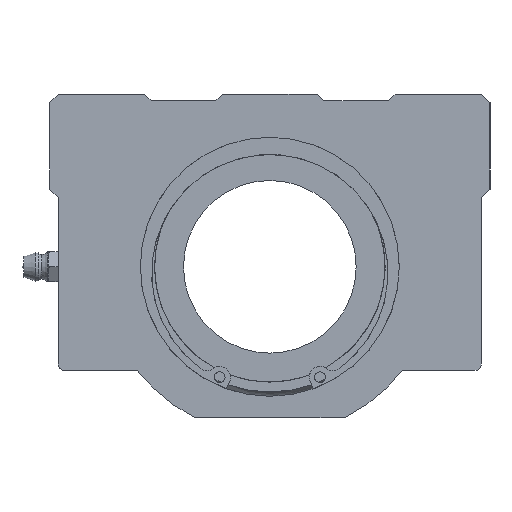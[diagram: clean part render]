
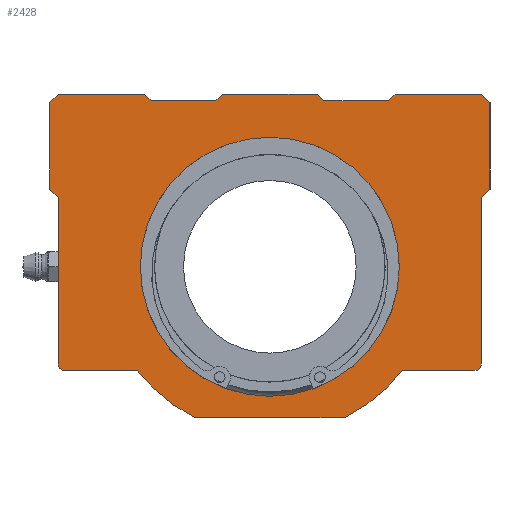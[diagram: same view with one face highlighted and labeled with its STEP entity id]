
A CAD part, left-side view. The second image highlights one B-rep face of the part: STEP entity #2428.
In plain terms, the highlighted planar face has unit normal (-1, 0, 0).
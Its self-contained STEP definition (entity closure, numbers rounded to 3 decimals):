
#1530=CARTESIAN_POINT('',(0.0,30.0,0.));
#1531=VERTEX_POINT('',#1530);
#1532=CARTESIAN_POINT('',(0.0,0.0,0.0));
#1533=DIRECTION('',(1.0,0.0,0.0));
#1534=DIRECTION('',(0.0,-1.0,0.0));
#1535=AXIS2_PLACEMENT_3D('',#1532,#1533,#1534);
#1536=CIRCLE('',#1535,30.0);
#1537=EDGE_CURVE('',#1531,#1531,#1536,.T.);
#1754=CARTESIAN_POINT('',(0.0,51.,38.));
#1755=VERTEX_POINT('',#1754);
#1770=CARTESIAN_POINT('',(0.0,51.,18.));
#1771=VERTEX_POINT('',#1770);
#1778=CARTESIAN_POINT('',(0.0,51.,18.));
#1779=DIRECTION('',(0.0,0.0,1.0));
#1780=VECTOR('',#1779,20.);
#1781=LINE('',#1778,#1780);
#1782=EDGE_CURVE('',#1771,#1755,#1781,.T.);
#1792=CARTESIAN_POINT('',(0.0,49.,-22.5));
#1793=VERTEX_POINT('',#1792);
#1802=CARTESIAN_POINT('',(0.0,49.,16.));
#1803=VERTEX_POINT('',#1802);
#1804=CARTESIAN_POINT('',(0.0,49.,-22.5));
#1805=DIRECTION('',(0.0,0.0,1.0));
#1806=VECTOR('',#1805,38.5);
#1807=LINE('',#1804,#1806);
#1808=EDGE_CURVE('',#1793,#1803,#1807,.T.);
#1893=CARTESIAN_POINT('',(0.0,17.205,-35.0));
#1894=VERTEX_POINT('',#1893);
#1901=CARTESIAN_POINT('',(0.0,30.741,-24.));
#1902=VERTEX_POINT('',#1901);
#1903=CARTESIAN_POINT('',(0.0,0.0,0.0));
#1904=DIRECTION('',(1.,0.0,0.0));
#1905=DIRECTION('',(0.0,0.441,-0.897));
#1906=AXIS2_PLACEMENT_3D('',#1903,#1904,#1905);
#1907=CIRCLE('',#1906,39.0);
#1908=EDGE_CURVE('',#1894,#1902,#1907,.T.);
#1932=CARTESIAN_POINT('',(0.0,-17.205,-35.0));
#1933=VERTEX_POINT('',#1932);
#1940=CARTESIAN_POINT('',(0.0,-17.205,-35.0));
#1941=DIRECTION('',(0.0,1.0,0.0));
#1942=VECTOR('',#1941,34.409);
#1943=LINE('',#1940,#1942);
#1944=EDGE_CURVE('',#1933,#1894,#1943,.T.);
#1964=CARTESIAN_POINT('',(0.0,-30.741,-24.));
#1965=VERTEX_POINT('',#1964);
#1972=CARTESIAN_POINT('',(0.0,0.0,0.0));
#1973=DIRECTION('',(1.,0.0,0.0));
#1974=DIRECTION('',(0.0,0.441,-0.897));
#1975=AXIS2_PLACEMENT_3D('',#1972,#1973,#1974);
#1976=CIRCLE('',#1975,39.0);
#1977=EDGE_CURVE('',#1965,#1933,#1976,.T.);
#1988=CARTESIAN_POINT('',(0.0,-47.5,-24.));
#1989=VERTEX_POINT('',#1988);
#1998=CARTESIAN_POINT('',(0.0,-47.5,-24.));
#1999=DIRECTION('',(0.0,1.0,0.0));
#2000=VECTOR('',#1999,16.759);
#2001=LINE('',#1998,#2000);
#2002=EDGE_CURVE('',#1989,#1965,#2001,.T.);
#2025=CARTESIAN_POINT('',(0.0,-51.,38.));
#2026=VERTEX_POINT('',#2025);
#2035=CARTESIAN_POINT('',(0.0,-51.,18.));
#2036=VERTEX_POINT('',#2035);
#2037=CARTESIAN_POINT('',(0.0,-51.,38.));
#2038=DIRECTION('',(0.0,0.0,-1.0));
#2039=VECTOR('',#2038,20.);
#2040=LINE('',#2037,#2039);
#2041=EDGE_CURVE('',#2026,#2036,#2040,.T.);
#2067=CARTESIAN_POINT('',(0.0,-49.,40.));
#2068=VERTEX_POINT('',#2067);
#2083=CARTESIAN_POINT('',(0.0,-29.0,40.));
#2084=VERTEX_POINT('',#2083);
#2091=CARTESIAN_POINT('',(0.0,-29.0,40.));
#2092=DIRECTION('',(0.0,-1.0,0.0));
#2093=VECTOR('',#2092,20.);
#2094=LINE('',#2091,#2093);
#2095=EDGE_CURVE('',#2084,#2068,#2094,.T.);
#2118=CARTESIAN_POINT('',(0.0,-49.,40.));
#2119=DIRECTION('',(0.0,-0.707,-0.707));
#2120=VECTOR('',#2119,2.828);
#2121=LINE('',#2118,#2120);
#2122=EDGE_CURVE('',#2068,#2026,#2121,.T.);
#2133=CARTESIAN_POINT('',(0.0,49.0,40.));
#2134=VERTEX_POINT('',#2133);
#2143=CARTESIAN_POINT('',(0.0,29.0,40.));
#2144=VERTEX_POINT('',#2143);
#2145=CARTESIAN_POINT('',(0.0,49.0,40.));
#2146=DIRECTION('',(0.0,-1.0,0.0));
#2147=VECTOR('',#2146,20.0);
#2148=LINE('',#2145,#2147);
#2149=EDGE_CURVE('',#2134,#2144,#2148,.T.);
#2186=CARTESIAN_POINT('',(0.0,51.,38.));
#2187=DIRECTION('',(0.0,-0.707,0.707));
#2188=VECTOR('',#2187,2.828);
#2189=LINE('',#2186,#2188);
#2190=EDGE_CURVE('',#1755,#2134,#2189,.T.);
#2201=CARTESIAN_POINT('',(0.0,-27.5,38.5));
#2202=VERTEX_POINT('',#2201);
#2203=CARTESIAN_POINT('',(0.0,-27.5,38.5));
#2204=DIRECTION('',(0.0,-0.707,0.707));
#2205=VECTOR('',#2204,2.121);
#2206=LINE('',#2203,#2205);
#2207=EDGE_CURVE('',#2202,#2084,#2206,.T.);
#2232=CARTESIAN_POINT('',(0.0,27.5,38.5));
#2233=VERTEX_POINT('',#2232);
#2234=CARTESIAN_POINT('',(0.0,29.0,40.));
#2235=DIRECTION('',(0.0,-0.707,-0.707));
#2236=VECTOR('',#2235,2.121);
#2237=LINE('',#2234,#2236);
#2238=EDGE_CURVE('',#2144,#2233,#2237,.T.);
#2263=CARTESIAN_POINT('',(0.0,-49.,16.));
#2264=VERTEX_POINT('',#2263);
#2265=CARTESIAN_POINT('',(0.0,-51.,18.));
#2266=DIRECTION('',(0.0,0.707,-0.707));
#2267=VECTOR('',#2266,2.828);
#2268=LINE('',#2265,#2267);
#2269=EDGE_CURVE('',#2036,#2264,#2268,.T.);
#2294=CARTESIAN_POINT('',(0.0,49.,16.));
#2295=DIRECTION('',(0.0,0.707,0.707));
#2296=VECTOR('',#2295,2.828);
#2297=LINE('',#2294,#2296);
#2298=EDGE_CURVE('',#1803,#1771,#2297,.T.);
#2318=CARTESIAN_POINT('',(0.0,-49.,-22.5));
#2319=VERTEX_POINT('',#2318);
#2333=CARTESIAN_POINT('',(0.0,-49.,16.));
#2334=DIRECTION('',(0.0,0.0,-1.0));
#2335=VECTOR('',#2334,38.5);
#2336=LINE('',#2333,#2335);
#2337=EDGE_CURVE('',#2264,#2319,#2336,.T.);
#2342=CARTESIAN_POINT('',(0.0,0.,5.252));
#2343=DIRECTION('',(1.0,0.0,0.0));
#2344=DIRECTION('',(0.0,0.0,-1.0));
#2345=AXIS2_PLACEMENT_3D('',#2342,#2343,#2344);
#2346=PLANE('',#2345);
#2347=CARTESIAN_POINT('',(0.0,47.5,-24.));
#2348=VERTEX_POINT('',#2347);
#2349=CARTESIAN_POINT('',(0.0,47.5,-22.5));
#2350=DIRECTION('',(1.,0.0,0.0));
#2351=DIRECTION('',(0.0,0.707,-0.707));
#2352=AXIS2_PLACEMENT_3D('',#2349,#2350,#2351);
#2353=CIRCLE('',#2352,1.5);
#2354=EDGE_CURVE('',#2348,#1793,#2353,.T.);
#2355=ORIENTED_EDGE('',*,*,#2354,.F.);
#2356=CARTESIAN_POINT('',(0.0,30.741,-24.));
#2357=DIRECTION('',(0.0,1.0,0.0));
#2358=VECTOR('',#2357,16.759);
#2359=LINE('',#2356,#2358);
#2360=EDGE_CURVE('',#1902,#2348,#2359,.T.);
#2361=ORIENTED_EDGE('',*,*,#2360,.F.);
#2362=ORIENTED_EDGE('',*,*,#1908,.F.);
#2363=ORIENTED_EDGE('',*,*,#1944,.F.);
#2364=ORIENTED_EDGE('',*,*,#1977,.F.);
#2365=ORIENTED_EDGE('',*,*,#2002,.F.);
#2366=CARTESIAN_POINT('',(0.0,-47.5,-22.5));
#2367=DIRECTION('',(1.0,0.0,0.0));
#2368=DIRECTION('',(0.0,-0.707,-0.707));
#2369=AXIS2_PLACEMENT_3D('',#2366,#2367,#2368);
#2370=CIRCLE('',#2369,1.5);
#2371=EDGE_CURVE('',#2319,#1989,#2370,.T.);
#2372=ORIENTED_EDGE('',*,*,#2371,.F.);
#2373=ORIENTED_EDGE('',*,*,#2337,.F.);
#2374=ORIENTED_EDGE('',*,*,#2269,.F.);
#2375=ORIENTED_EDGE('',*,*,#2041,.F.);
#2376=ORIENTED_EDGE('',*,*,#2122,.F.);
#2377=ORIENTED_EDGE('',*,*,#2095,.F.);
#2378=ORIENTED_EDGE('',*,*,#2207,.F.);
#2379=CARTESIAN_POINT('',(0.0,-12.5,38.5));
#2380=VERTEX_POINT('',#2379);
#2381=CARTESIAN_POINT('',(0.0,-12.5,38.5));
#2382=DIRECTION('',(0.0,-1.0,0.0));
#2383=VECTOR('',#2382,15.);
#2384=LINE('',#2381,#2383);
#2385=EDGE_CURVE('',#2380,#2202,#2384,.T.);
#2386=ORIENTED_EDGE('',*,*,#2385,.F.);
#2387=CARTESIAN_POINT('',(0.0,-11.,40.));
#2388=VERTEX_POINT('',#2387);
#2389=CARTESIAN_POINT('',(0.0,-11.,40.));
#2390=DIRECTION('',(0.0,-0.707,-0.707));
#2391=VECTOR('',#2390,2.121);
#2392=LINE('',#2389,#2391);
#2393=EDGE_CURVE('',#2388,#2380,#2392,.T.);
#2394=ORIENTED_EDGE('',*,*,#2393,.F.);
#2395=CARTESIAN_POINT('',(0.0,11.,40.0));
#2396=VERTEX_POINT('',#2395);
#2397=CARTESIAN_POINT('',(0.0,11.,40.0));
#2398=DIRECTION('',(0.0,-1.0,0.0));
#2399=VECTOR('',#2398,22.0);
#2400=LINE('',#2397,#2399);
#2401=EDGE_CURVE('',#2396,#2388,#2400,.T.);
#2402=ORIENTED_EDGE('',*,*,#2401,.F.);
#2403=CARTESIAN_POINT('',(0.0,12.5,38.5));
#2404=VERTEX_POINT('',#2403);
#2405=CARTESIAN_POINT('',(0.0,12.5,38.5));
#2406=DIRECTION('',(0.0,-0.707,0.707));
#2407=VECTOR('',#2406,2.121);
#2408=LINE('',#2405,#2407);
#2409=EDGE_CURVE('',#2404,#2396,#2408,.T.);
#2410=ORIENTED_EDGE('',*,*,#2409,.F.);
#2411=CARTESIAN_POINT('',(0.0,27.5,38.5));
#2412=DIRECTION('',(0.0,-1.0,0.0));
#2413=VECTOR('',#2412,15.);
#2414=LINE('',#2411,#2413);
#2415=EDGE_CURVE('',#2233,#2404,#2414,.T.);
#2416=ORIENTED_EDGE('',*,*,#2415,.F.);
#2417=ORIENTED_EDGE('',*,*,#2238,.F.);
#2418=ORIENTED_EDGE('',*,*,#2149,.F.);
#2419=ORIENTED_EDGE('',*,*,#2190,.F.);
#2420=ORIENTED_EDGE('',*,*,#1782,.F.);
#2421=ORIENTED_EDGE('',*,*,#2298,.F.);
#2422=ORIENTED_EDGE('',*,*,#1808,.F.);
#2423=EDGE_LOOP('',(#2355,#2361,#2362,#2363,#2364,#2365,#2372,#2373,#2374,#2375,#2376,#2377,#2378,#2386,#2394,#2402,#2410,#2416,#2417,#2418,#2419,#2420,#2421,#2422));
#2424=FACE_OUTER_BOUND('',#2423,.T.);
#2425=ORIENTED_EDGE('',*,*,#1537,.T.);
#2426=EDGE_LOOP('',(#2425));
#2427=FACE_BOUND('',#2426,.T.);
#2428=ADVANCED_FACE('',(#2424,#2427),#2346,.F.);
